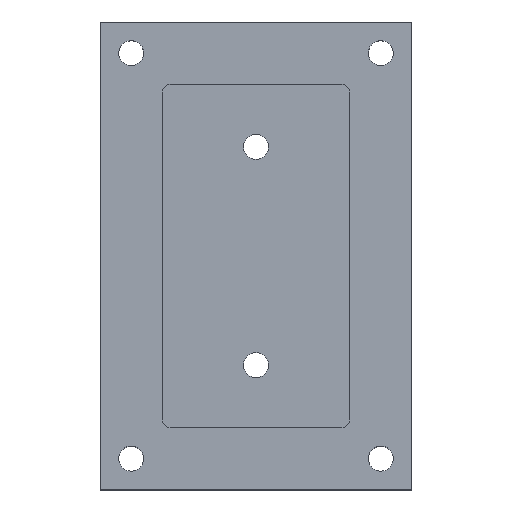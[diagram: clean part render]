
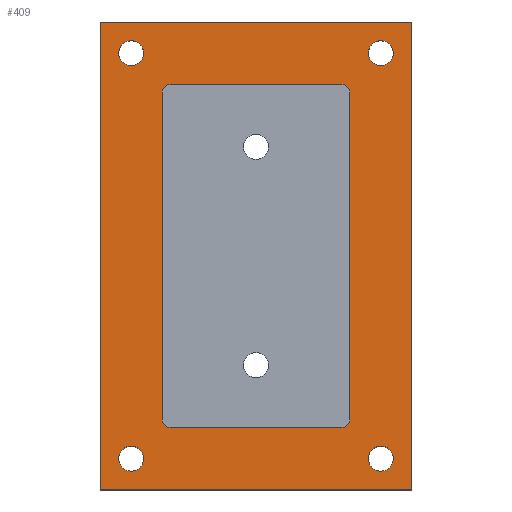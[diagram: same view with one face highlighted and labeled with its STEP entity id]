
A CAD part, top view. The second image highlights one B-rep face of the part: STEP entity #409.
In plain terms, the highlighted planar face has unit normal (0, 0, 1).
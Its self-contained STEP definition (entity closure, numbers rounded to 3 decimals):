
#17=FACE_BOUND('',#82,.T.);
#18=FACE_BOUND('',#83,.T.);
#19=FACE_BOUND('',#84,.T.);
#20=FACE_BOUND('',#85,.T.);
#21=FACE_BOUND('',#86,.T.);
#37=PLANE('',#464);
#58=FACE_OUTER_BOUND('',#81,.T.);
#81=EDGE_LOOP('',(#354,#355,#356,#357));
#82=EDGE_LOOP('',(#358,#359,#360,#361,#362,#363,#364,#365));
#83=EDGE_LOOP('',(#366));
#84=EDGE_LOOP('',(#367));
#85=EDGE_LOOP('',(#368));
#86=EDGE_LOOP('',(#369));
#100=LINE('',#614,#134);
#105=LINE('',#625,#139);
#108=LINE('',#633,#142);
#109=LINE('',#637,#143);
#118=LINE('',#677,#152);
#121=LINE('',#683,#155);
#124=LINE('',#689,#158);
#127=LINE('',#693,#161);
#134=VECTOR('',#494,10.);
#139=VECTOR('',#505,10.);
#142=VECTOR('',#514,10.);
#143=VECTOR('',#521,10.);
#152=VECTOR('',#564,10.);
#155=VECTOR('',#569,10.);
#158=VECTOR('',#574,10.);
#161=VECTOR('',#579,10.);
#163=CIRCLE('',#427,1.25);
#169=CIRCLE('',#436,1.25);
#170=CIRCLE('',#439,1.25);
#171=CIRCLE('',#442,1.25);
#174=CIRCLE('',#449,2.);
#176=CIRCLE('',#452,2.);
#178=CIRCLE('',#455,2.);
#180=CIRCLE('',#458,2.);
#184=VERTEX_POINT('',#589);
#185=VERTEX_POINT('',#591);
#194=VERTEX_POINT('',#613);
#195=VERTEX_POINT('',#617);
#196=VERTEX_POINT('',#619);
#197=VERTEX_POINT('',#623);
#198=VERTEX_POINT('',#627);
#199=VERTEX_POINT('',#631);
#202=VERTEX_POINT('',#647);
#204=VERTEX_POINT('',#653);
#206=VERTEX_POINT('',#659);
#208=VERTEX_POINT('',#665);
#212=VERTEX_POINT('',#674);
#213=VERTEX_POINT('',#676);
#215=VERTEX_POINT('',#682);
#217=VERTEX_POINT('',#688);
#220=EDGE_CURVE('',#184,#185,#163,.T.);
#231=EDGE_CURVE('',#194,#185,#100,.T.);
#234=EDGE_CURVE('',#195,#196,#169,.T.);
#237=EDGE_CURVE('',#195,#197,#105,.T.);
#239=EDGE_CURVE('',#198,#197,#170,.T.);
#241=EDGE_CURVE('',#198,#199,#108,.T.);
#242=EDGE_CURVE('',#194,#199,#171,.T.);
#243=EDGE_CURVE('',#184,#196,#109,.T.);
#248=EDGE_CURVE('',#202,#202,#174,.T.);
#251=EDGE_CURVE('',#204,#204,#176,.T.);
#254=EDGE_CURVE('',#206,#206,#178,.T.);
#257=EDGE_CURVE('',#208,#208,#180,.T.);
#262=EDGE_CURVE('',#213,#212,#118,.T.);
#265=EDGE_CURVE('',#215,#213,#121,.T.);
#268=EDGE_CURVE('',#217,#215,#124,.T.);
#271=EDGE_CURVE('',#212,#217,#127,.T.);
#354=ORIENTED_EDGE('',*,*,#268,.T.);
#355=ORIENTED_EDGE('',*,*,#265,.T.);
#356=ORIENTED_EDGE('',*,*,#262,.T.);
#357=ORIENTED_EDGE('',*,*,#271,.T.);
#358=ORIENTED_EDGE('',*,*,#231,.T.);
#359=ORIENTED_EDGE('',*,*,#220,.F.);
#360=ORIENTED_EDGE('',*,*,#243,.T.);
#361=ORIENTED_EDGE('',*,*,#234,.F.);
#362=ORIENTED_EDGE('',*,*,#237,.T.);
#363=ORIENTED_EDGE('',*,*,#239,.F.);
#364=ORIENTED_EDGE('',*,*,#241,.T.);
#365=ORIENTED_EDGE('',*,*,#242,.F.);
#366=ORIENTED_EDGE('',*,*,#251,.T.);
#367=ORIENTED_EDGE('',*,*,#254,.T.);
#368=ORIENTED_EDGE('',*,*,#257,.T.);
#369=ORIENTED_EDGE('',*,*,#248,.T.);
#409=ADVANCED_FACE('',(#58,#17,#18,#19,#20,#21),#37,.T.);
#427=AXIS2_PLACEMENT_3D('',#592,#473,#474);
#436=AXIS2_PLACEMENT_3D('',#620,#499,#500);
#439=AXIS2_PLACEMENT_3D('',#629,#509,#510);
#442=AXIS2_PLACEMENT_3D('',#635,#517,#518);
#449=AXIS2_PLACEMENT_3D('',#648,#534,#535);
#452=AXIS2_PLACEMENT_3D('',#654,#541,#542);
#455=AXIS2_PLACEMENT_3D('',#660,#548,#549);
#458=AXIS2_PLACEMENT_3D('',#666,#555,#556);
#464=AXIS2_PLACEMENT_3D('',#694,#580,#581);
#473=DIRECTION('center_axis',(0.,0.,1.));
#474=DIRECTION('ref_axis',(0.707,-0.707,0.));
#494=DIRECTION('',(0.,-1.,0.));
#499=DIRECTION('center_axis',(0.,0.,1.));
#500=DIRECTION('ref_axis',(-0.707,-0.707,0.));
#505=DIRECTION('',(0.,1.,0.));
#509=DIRECTION('center_axis',(0.,0.,1.));
#510=DIRECTION('ref_axis',(-0.707,0.707,0.));
#514=DIRECTION('',(1.,0.,0.));
#517=DIRECTION('center_axis',(0.,0.,1.));
#518=DIRECTION('ref_axis',(0.707,0.707,0.));
#521=DIRECTION('',(-1.,0.,0.));
#534=DIRECTION('center_axis',(0.,0.,-1.));
#535=DIRECTION('ref_axis',(1.,0.,0.));
#541=DIRECTION('center_axis',(0.,0.,-1.));
#542=DIRECTION('ref_axis',(1.,0.,0.));
#548=DIRECTION('center_axis',(0.,0.,-1.));
#549=DIRECTION('ref_axis',(1.,0.,0.));
#555=DIRECTION('center_axis',(0.,0.,-1.));
#556=DIRECTION('ref_axis',(1.,0.,0.));
#564=DIRECTION('',(0.,-1.,0.));
#569=DIRECTION('',(-1.,0.,0.));
#574=DIRECTION('',(0.,1.,0.));
#579=DIRECTION('',(1.,0.,0.));
#580=DIRECTION('center_axis',(0.,0.,1.));
#581=DIRECTION('ref_axis',(1.,0.,0.));
#589=CARTESIAN_POINT('',(38.75,10.,12.));
#591=CARTESIAN_POINT('',(40.,11.25,12.));
#592=CARTESIAN_POINT('Origin',(38.75,11.25,12.));
#613=CARTESIAN_POINT('',(40.,63.75,12.));
#614=CARTESIAN_POINT('',(40.,46.25,12.));
#617=CARTESIAN_POINT('',(10.,11.25,12.));
#619=CARTESIAN_POINT('',(11.25,10.,12.));
#620=CARTESIAN_POINT('Origin',(11.25,11.25,12.));
#623=CARTESIAN_POINT('',(10.,63.75,12.));
#625=CARTESIAN_POINT('',(10.,28.75,12.));
#627=CARTESIAN_POINT('',(11.25,65.,12.));
#629=CARTESIAN_POINT('Origin',(11.25,63.75,12.));
#631=CARTESIAN_POINT('',(38.75,65.,12.));
#633=CARTESIAN_POINT('',(22.5,65.,12.));
#635=CARTESIAN_POINT('Origin',(38.75,63.75,12.));
#637=CARTESIAN_POINT('',(27.5,10.,12.));
#647=CARTESIAN_POINT('',(3.,5.,12.));
#648=CARTESIAN_POINT('Origin',(5.,5.,12.));
#653=CARTESIAN_POINT('',(43.,70.,12.));
#654=CARTESIAN_POINT('Origin',(45.,70.,12.));
#659=CARTESIAN_POINT('',(43.,5.,12.));
#660=CARTESIAN_POINT('Origin',(45.,5.,12.));
#665=CARTESIAN_POINT('',(3.,70.,12.));
#666=CARTESIAN_POINT('Origin',(5.,70.,12.));
#674=CARTESIAN_POINT('',(0.,0.,12.));
#676=CARTESIAN_POINT('',(0.,75.,12.));
#677=CARTESIAN_POINT('',(0.,75.,12.));
#682=CARTESIAN_POINT('',(50.,75.,12.));
#683=CARTESIAN_POINT('',(50.,75.,12.));
#688=CARTESIAN_POINT('',(50.,0.,12.));
#689=CARTESIAN_POINT('',(50.,0.,12.));
#693=CARTESIAN_POINT('',(0.,0.,12.));
#694=CARTESIAN_POINT('Origin',(25.,37.5,12.));
